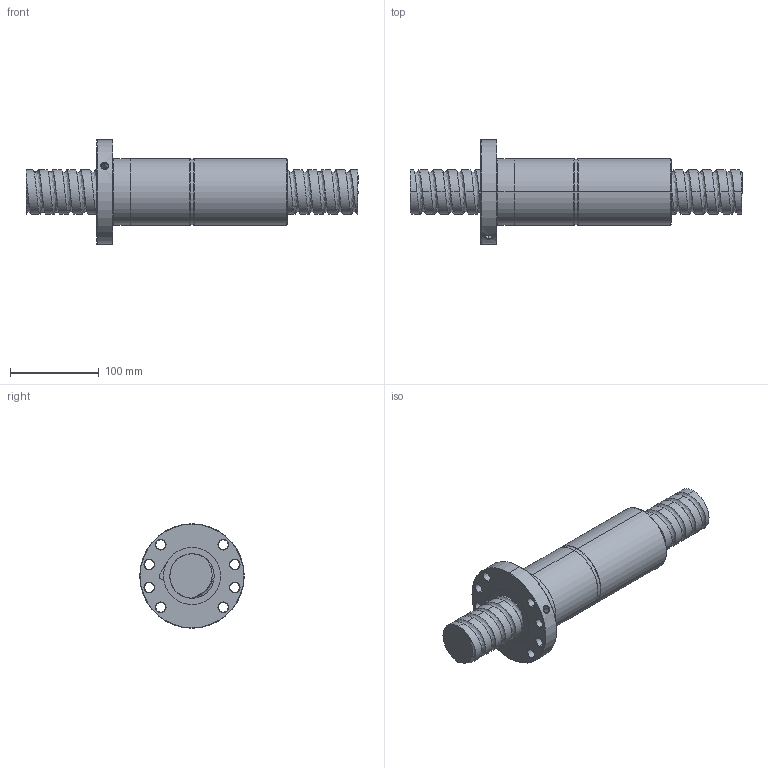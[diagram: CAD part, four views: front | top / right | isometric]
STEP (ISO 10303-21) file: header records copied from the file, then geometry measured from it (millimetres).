
FILE_DESCRIPTION (( 'STEP AP214' ), '1' );
FILE_NAME ('FDDC05016T5-F-A.STEP', '2010-07-07T01:36:43', ( 'XPAUTO' ), ( 'XPAUTO' ), 'SwSTEP 2.0', 'SolidWorks 2007', '' );
FILE_SCHEMA (( 'AUTOMOTIVE_DESIGN' ));
Length unit declared in the file: millimetre
Products named in the file (3): FDDC05016T5-F-A.sldasm-Part-1_預設; FDDC05016T5-F-A.sldasm-Part-2_預設; FDDC05016T5-F-A
Assembly tree (2 placements, depth 2):
  FDDC05016T5-F-A
    FDDC05016T5-F-A.sldasm-Part-2_預設
    FDDC05016T5-F-A.sldasm-Part-1_預設
Bounding box: 375 x 118 x 118 mm (x, y, z)
Volume: 1317870.6 mm3; surface area: 178969.8 mm2
Topology: 2 solids, 2 shells, 157 faces, 393 edges, 245 vertices
Faces by surface type: cylinder 94, cone 32, plane 16, torus 10, bspline 5
Entity records: 46832 total; most frequent: CARTESIAN_POINT 43091, ORIENTED_EDGE 786, DIRECTION 735, EDGE_CURVE 393, AXIS2_PLACEMENT_3D 301, VERTEX_POINT 245, EDGE_LOOP 182, FACE_OUTER_BOUND 157
